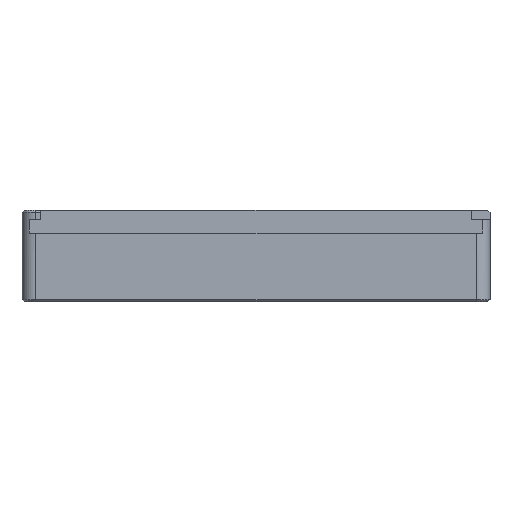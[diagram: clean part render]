
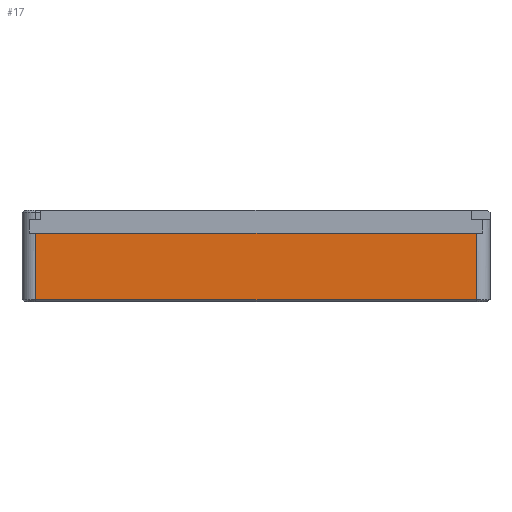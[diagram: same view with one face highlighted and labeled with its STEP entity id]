
A CAD part, left-side view. The second image highlights one B-rep face of the part: STEP entity #17.
In plain terms, the highlighted planar face has unit normal (-1, 0, 0).
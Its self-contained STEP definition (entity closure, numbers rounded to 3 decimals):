
#17 = ADVANCED_FACE('',(#18),#32,.T.);
#18 = FACE_BOUND('',#19,.T.);
#19 = EDGE_LOOP('',(#20,#55,#83,#111));
#20 = ORIENTED_EDGE('',*,*,#21,.F.);
#21 = EDGE_CURVE('',#22,#24,#26,.T.);
#22 = VERTEX_POINT('',#23);
#23 = CARTESIAN_POINT('',(0.,3.,0.5));
#24 = VERTEX_POINT('',#25);
#25 = CARTESIAN_POINT('',(0.,99.,0.5));
#26 = SURFACE_CURVE('',#27,(#31,#43),.PCURVE_S1.);
#27 = LINE('',#28,#29);
#28 = CARTESIAN_POINT('',(0.,3.,0.5));
#29 = VECTOR('',#30,1.);
#30 = DIRECTION('',(0.,1.,0.));
#31 = PCURVE('',#32,#37);
#32 = PLANE('',#33);
#33 = AXIS2_PLACEMENT_3D('',#34,#35,#36);
#34 = CARTESIAN_POINT('',(0.,3.,0.));
#35 = DIRECTION('',(-1.,0.,0.));
#36 = DIRECTION('',(0.,1.,0.));
#37 = DEFINITIONAL_REPRESENTATION('',(#38),#42);
#38 = LINE('',#39,#40);
#39 = CARTESIAN_POINT('',(0.,-0.5));
#40 = VECTOR('',#41,1.);
#41 = DIRECTION('',(1.,0.));
#42 = ( GEOMETRIC_REPRESENTATION_CONTEXT(2) 
PARAMETRIC_REPRESENTATION_CONTEXT() REPRESENTATION_CONTEXT('2D SPACE',''
  ) );
#43 = PCURVE('',#44,#49);
#44 = PLANE('',#45);
#45 = AXIS2_PLACEMENT_3D('',#46,#47,#48);
#46 = CARTESIAN_POINT('',(0.25,3.,0.25));
#47 = DIRECTION('',(0.707,0.,0.707));
#48 = DIRECTION('',(0.,-1.,-0.));
#49 = DEFINITIONAL_REPRESENTATION('',(#50),#54);
#50 = LINE('',#51,#52);
#51 = CARTESIAN_POINT('',(-0.,-0.354));
#52 = VECTOR('',#53,1.);
#53 = DIRECTION('',(-1.,0.));
#54 = ( GEOMETRIC_REPRESENTATION_CONTEXT(2) 
PARAMETRIC_REPRESENTATION_CONTEXT() REPRESENTATION_CONTEXT('2D SPACE',''
  ) );
#55 = ORIENTED_EDGE('',*,*,#56,.T.);
#56 = EDGE_CURVE('',#22,#57,#59,.T.);
#57 = VERTEX_POINT('',#58);
#58 = CARTESIAN_POINT('',(0.,3.,15.));
#59 = SURFACE_CURVE('',#60,(#64,#71),.PCURVE_S1.);
#60 = LINE('',#61,#62);
#61 = CARTESIAN_POINT('',(0.,3.,0.));
#62 = VECTOR('',#63,1.);
#63 = DIRECTION('',(0.,0.,1.));
#64 = PCURVE('',#32,#65);
#65 = DEFINITIONAL_REPRESENTATION('',(#66),#70);
#66 = LINE('',#67,#68);
#67 = CARTESIAN_POINT('',(0.,0.));
#68 = VECTOR('',#69,1.);
#69 = DIRECTION('',(0.,-1.));
#70 = ( GEOMETRIC_REPRESENTATION_CONTEXT(2) 
PARAMETRIC_REPRESENTATION_CONTEXT() REPRESENTATION_CONTEXT('2D SPACE',''
  ) );
#71 = PCURVE('',#72,#77);
#72 = CYLINDRICAL_SURFACE('',#73,3.);
#73 = AXIS2_PLACEMENT_3D('',#74,#75,#76);
#74 = CARTESIAN_POINT('',(3.,3.,0.));
#75 = DIRECTION('',(0.,0.,-1.));
#76 = DIRECTION('',(-1.,0.,0.));
#77 = DEFINITIONAL_REPRESENTATION('',(#78),#82);
#78 = LINE('',#79,#80);
#79 = CARTESIAN_POINT('',(6.283,0.));
#80 = VECTOR('',#81,1.);
#81 = DIRECTION('',(0.,-1.));
#82 = ( GEOMETRIC_REPRESENTATION_CONTEXT(2) 
PARAMETRIC_REPRESENTATION_CONTEXT() REPRESENTATION_CONTEXT('2D SPACE',''
  ) );
#83 = ORIENTED_EDGE('',*,*,#84,.T.);
#84 = EDGE_CURVE('',#57,#85,#87,.T.);
#85 = VERTEX_POINT('',#86);
#86 = CARTESIAN_POINT('',(0.,99.,15.));
#87 = SURFACE_CURVE('',#88,(#92,#99),.PCURVE_S1.);
#88 = LINE('',#89,#90);
#89 = CARTESIAN_POINT('',(0.,3.,15.));
#90 = VECTOR('',#91,1.);
#91 = DIRECTION('',(0.,1.,0.));
#92 = PCURVE('',#32,#93);
#93 = DEFINITIONAL_REPRESENTATION('',(#94),#98);
#94 = LINE('',#95,#96);
#95 = CARTESIAN_POINT('',(0.,-15.));
#96 = VECTOR('',#97,1.);
#97 = DIRECTION('',(1.,0.));
#98 = ( GEOMETRIC_REPRESENTATION_CONTEXT(2) 
PARAMETRIC_REPRESENTATION_CONTEXT() REPRESENTATION_CONTEXT('2D SPACE',''
  ) );
#99 = PCURVE('',#100,#105);
#100 = PLANE('',#101);
#101 = AXIS2_PLACEMENT_3D('',#102,#103,#104);
#102 = CARTESIAN_POINT('',(-1.,1.6,15.));
#103 = DIRECTION('',(0.,0.,1.));
#104 = DIRECTION('',(1.,0.,-0.));
#105 = DEFINITIONAL_REPRESENTATION('',(#106),#110);
#106 = LINE('',#107,#108);
#107 = CARTESIAN_POINT('',(1.,1.4));
#108 = VECTOR('',#109,1.);
#109 = DIRECTION('',(0.,1.));
#110 = ( GEOMETRIC_REPRESENTATION_CONTEXT(2) 
PARAMETRIC_REPRESENTATION_CONTEXT() REPRESENTATION_CONTEXT('2D SPACE',''
  ) );
#111 = ORIENTED_EDGE('',*,*,#112,.F.);
#112 = EDGE_CURVE('',#24,#85,#113,.T.);
#113 = SURFACE_CURVE('',#114,(#118,#125),.PCURVE_S1.);
#114 = LINE('',#115,#116);
#115 = CARTESIAN_POINT('',(0.,99.,0.));
#116 = VECTOR('',#117,1.);
#117 = DIRECTION('',(0.,0.,1.));
#118 = PCURVE('',#32,#119);
#119 = DEFINITIONAL_REPRESENTATION('',(#120),#124);
#120 = LINE('',#121,#122);
#121 = CARTESIAN_POINT('',(96.,0.));
#122 = VECTOR('',#123,1.);
#123 = DIRECTION('',(0.,-1.));
#124 = ( GEOMETRIC_REPRESENTATION_CONTEXT(2) 
PARAMETRIC_REPRESENTATION_CONTEXT() REPRESENTATION_CONTEXT('2D SPACE',''
  ) );
#125 = PCURVE('',#126,#131);
#126 = CYLINDRICAL_SURFACE('',#127,3.);
#127 = AXIS2_PLACEMENT_3D('',#128,#129,#130);
#128 = CARTESIAN_POINT('',(3.,99.,0.));
#129 = DIRECTION('',(0.,0.,-1.));
#130 = DIRECTION('',(-1.,0.,0.));
#131 = DEFINITIONAL_REPRESENTATION('',(#132),#136);
#132 = LINE('',#133,#134);
#133 = CARTESIAN_POINT('',(0.,0.));
#134 = VECTOR('',#135,1.);
#135 = DIRECTION('',(0.,-1.));
#136 = ( GEOMETRIC_REPRESENTATION_CONTEXT(2) 
PARAMETRIC_REPRESENTATION_CONTEXT() REPRESENTATION_CONTEXT('2D SPACE',''
  ) );
